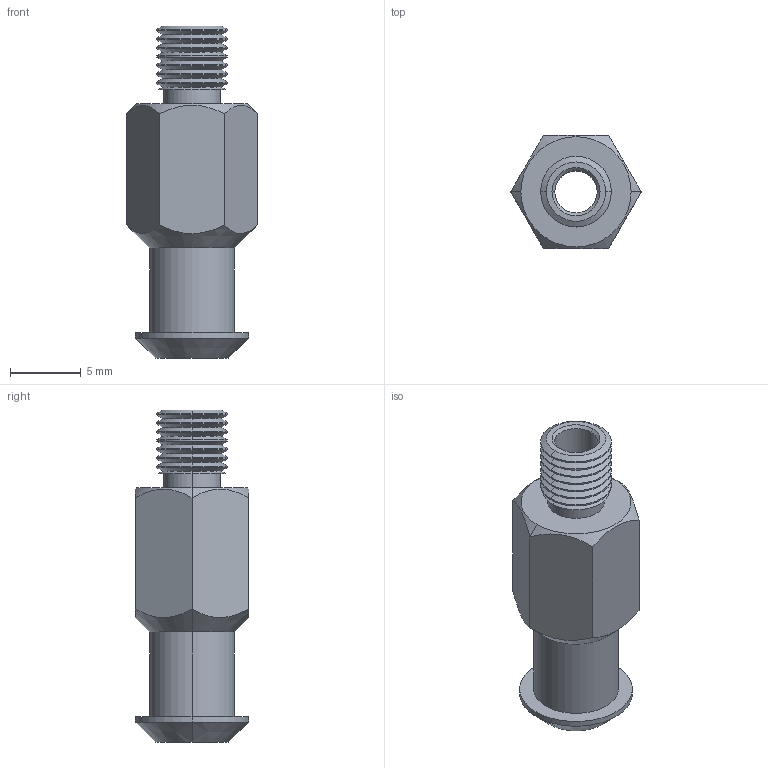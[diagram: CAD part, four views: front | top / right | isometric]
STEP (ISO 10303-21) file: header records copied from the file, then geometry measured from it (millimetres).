
FILE_DESCRIPTION (( 'STEP AP214' ), '1' );
FILE_NAME ('VM-04-M5.STEP', '2023-03-07T08:52:45', ( 'Windows User' ), ( 'P R C' ), 'SwSTEP 2.0', 'SolidWorks 2019', '' );
FILE_SCHEMA (( 'AUTOMOTIVE_DESIGN' ));
Length unit declared in the file: millimetre
Products named in the file (1): VM-04-M5
Bounding box: 9.24 x 8 x 23.5 mm (x, y, z)
Volume: 707 mm3; surface area: 881.3 mm2
Topology: 1 solids, 1 shells, 87 faces, 178 edges, 96 vertices
Faces by surface type: cone 40, cylinder 36, plane 11
Entity records: 2386 total; most frequent: CARTESIAN_POINT 502, DIRECTION 426, ORIENTED_EDGE 356, EDGE_CURVE 178, AXIS2_PLACEMENT_3D 172, VERTEX_POINT 96, EDGE_LOOP 92, ADVANCED_FACE 87
